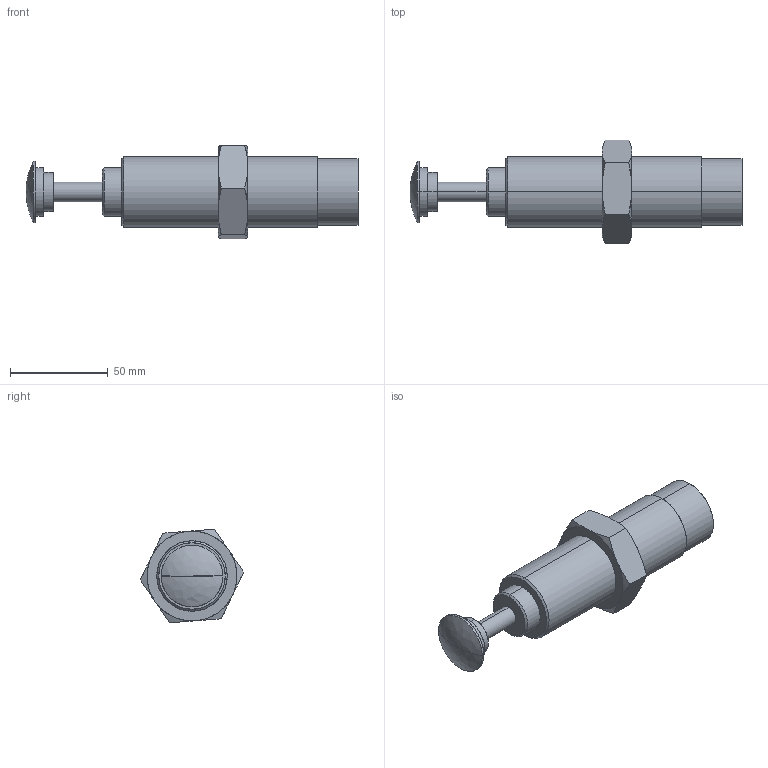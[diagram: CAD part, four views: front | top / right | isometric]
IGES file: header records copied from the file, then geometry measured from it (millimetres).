
Start section: SolidWorks IGES file using analytic representation for surfaces
Global section: file name: C:\Users\Sam Lin\Desktop\48\FSA-3625CD.IGS; native system: SolidWorks 2013; preprocessor: SolidWorks 2013; author: Sam Lin; date: 160317.152750; units: metre
Bounding box: 170 x 52.96 x 47.9 mm (x, y, z)
Surface area: 24842 mm2 (no closed solid volume)
Topology: 0 solids, 0 shells, 49 faces, 1084 edges, 1083 vertices
Faces by surface type: bspline 27, revolution 22
